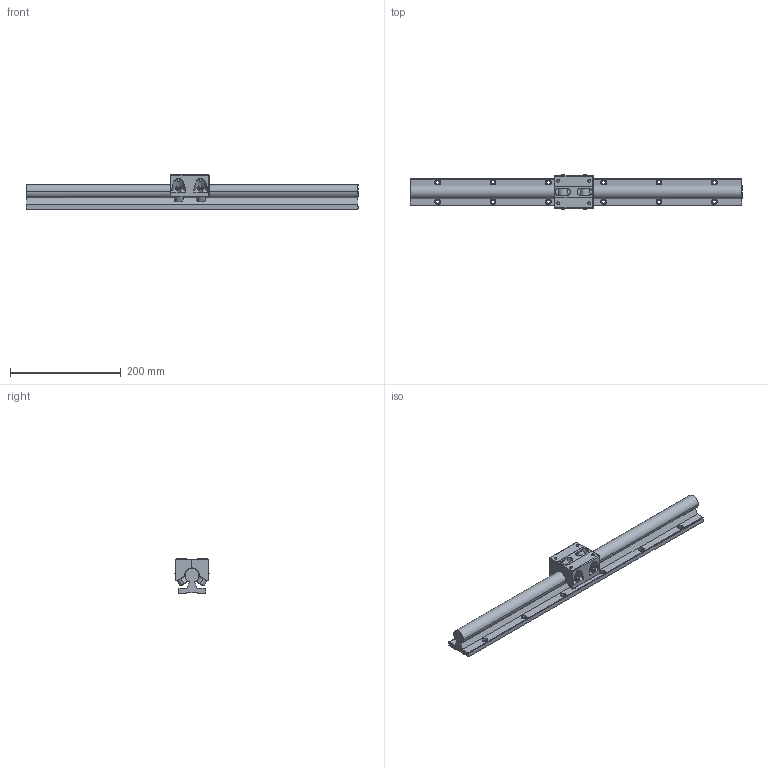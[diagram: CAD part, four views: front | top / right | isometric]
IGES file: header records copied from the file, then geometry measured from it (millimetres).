
Global section: file name: No Iges File Name specified; native system: AutoDesk Inventor R10; preprocessor: AutoDesk Inventor Iges Exporter R10; author: No Author specified; organization: No Organization specified; date: 20101222.155940; units: millimetre
Bounding box: 600 x 63.17 x 62 mm (x, y, z)
Surface area: 147485.5 mm2 (no closed solid volume)
Topology: 0 solids, 0 shells, 290 faces, 2102 edges, 2094 vertices
Faces by surface type: bspline 290
